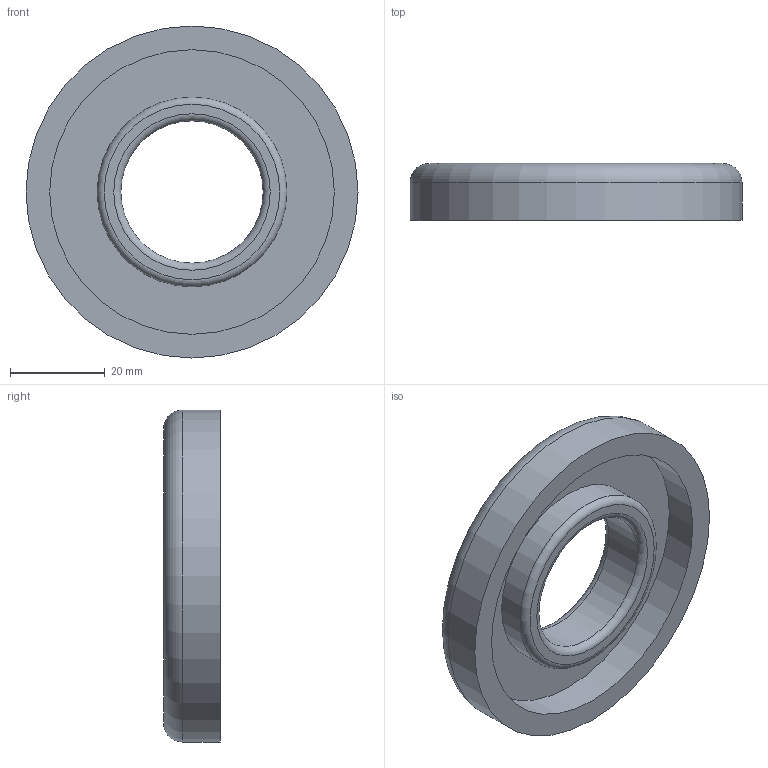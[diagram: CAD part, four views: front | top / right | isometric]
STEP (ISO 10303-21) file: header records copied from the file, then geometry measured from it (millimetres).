
FILE_DESCRIPTION(/* description */ (''),/* implementation_level */ '2;1');
FILE_NAME(/* name */ 'G:\YandexDisk\Работа\Inventor\Универ\ОАП\Лабораторные работы\ЛР6 Создание сборок\Редуктор\stp\Кольцо 2.stp',/* time_stamp */ '2023-11-17T06:32:14+03:00',/* author */ ('34740'),/* organization */ (''),/* preprocessor_version */ 'ST-DEVELOPER v18.1',/* originating_system */ 'Autodesk Inventor 2022',/* authorisation */ '');
FILE_SCHEMA (('AUTOMOTIVE_DESIGN { 1 0 10303 214 3 1 1 }'));
Length unit declared in the file: millimetre
Products named in the file (1): Кольцо 2
Bounding box: 70 x 12 x 70 mm (x, y, z)
Volume: 25778.2 mm3; surface area: 11646.8 mm2
Topology: 1 solids, 1 shells, 12 faces, 24 edges, 16 vertices
Faces by surface type: torus 4, plane 4, cylinder 4
Full cylindrical faces by diameter (mm): 30 x1, 40 x1, 60 x1, 70 x1
Entity records: 373 total; most frequent: DIRECTION 70, CARTESIAN_POINT 53, ORIENTED_EDGE 48, AXIS2_PLACEMENT_3D 33, EDGE_CURVE 24, CIRCLE 20, EDGE_LOOP 16, VERTEX_POINT 16
